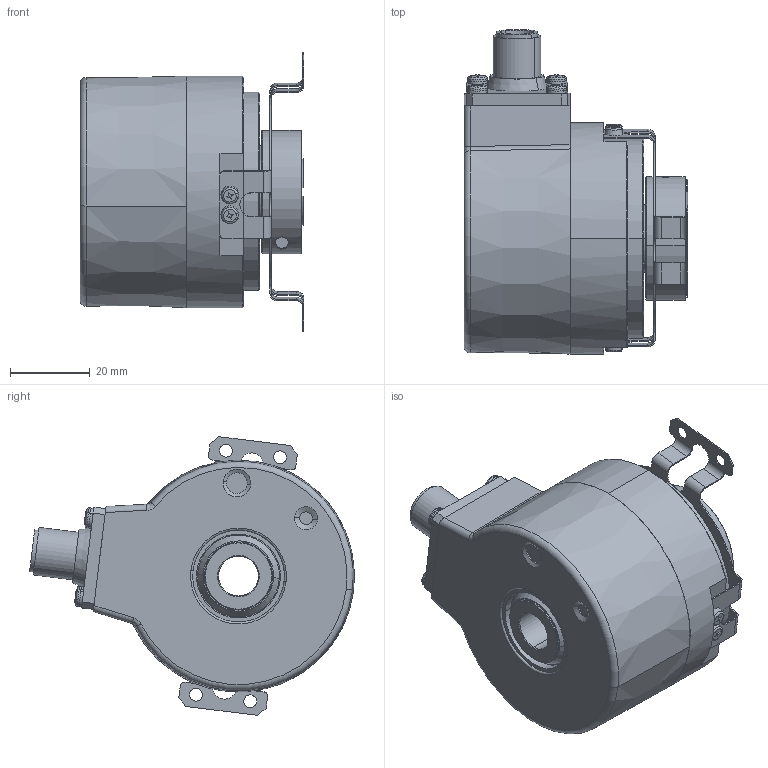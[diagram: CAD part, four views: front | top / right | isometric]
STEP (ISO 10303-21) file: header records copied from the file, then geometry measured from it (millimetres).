
FILE_DESCRIPTION (( 'STEP AP203' ), '1' );
FILE_NAME ('8.5834FSX.B3X6.XXXX.STEP', '2013-08-01T11:10:43', ( 'Admin' ), ( 'Fritz Kübler GmbH' ), 'SwSTEP 2.0', 'SolidWorks 2012', '' );
FILE_SCHEMA (( 'CONFIG_CONTROL_DESIGN' ));
Length unit declared in the file: millimetre
Products named in the file (1): 8.5834FSX.B3X6.XXXX
Bounding box: 56 x 81.25 x 69.69 mm (x, y, z)
Volume: 79507 mm3; surface area: 51462.8 mm2
Topology: 22 solids, 23 shells, 1214 faces, 3033 edges, 1849 vertices
Faces by surface type: plane 438, cylinder 374, cone 198, torus 100, sphere 68, bspline 36
Entity records: 38494 total; most frequent: CARTESIAN_POINT 9833, DIRECTION 6274, ORIENTED_EDGE 5774, EDGE_CURVE 2887, AXIS2_PLACEMENT_3D 2499, VERTEX_POINT 1797, EDGE_LOOP 1382, CIRCLE 1320
